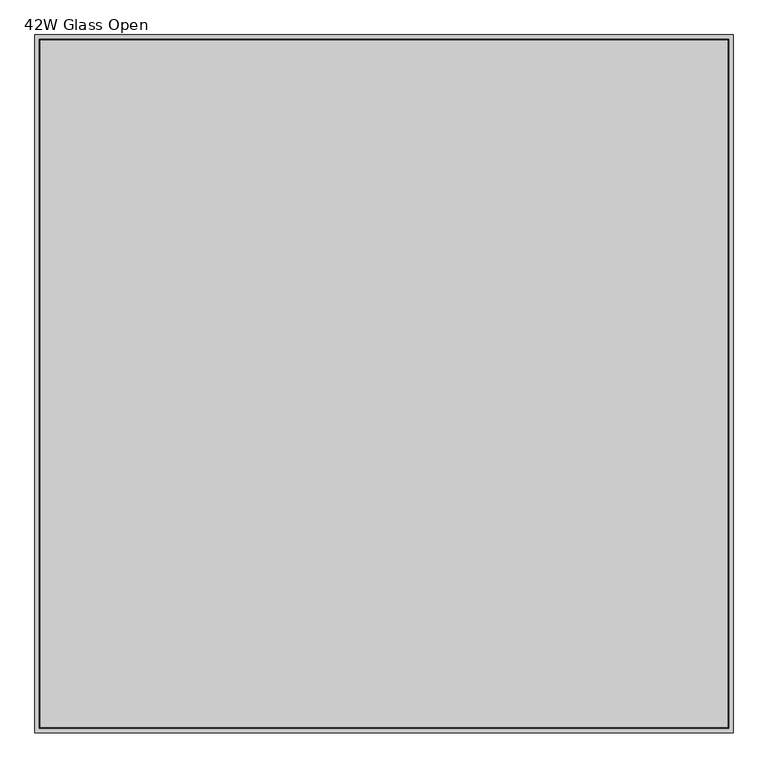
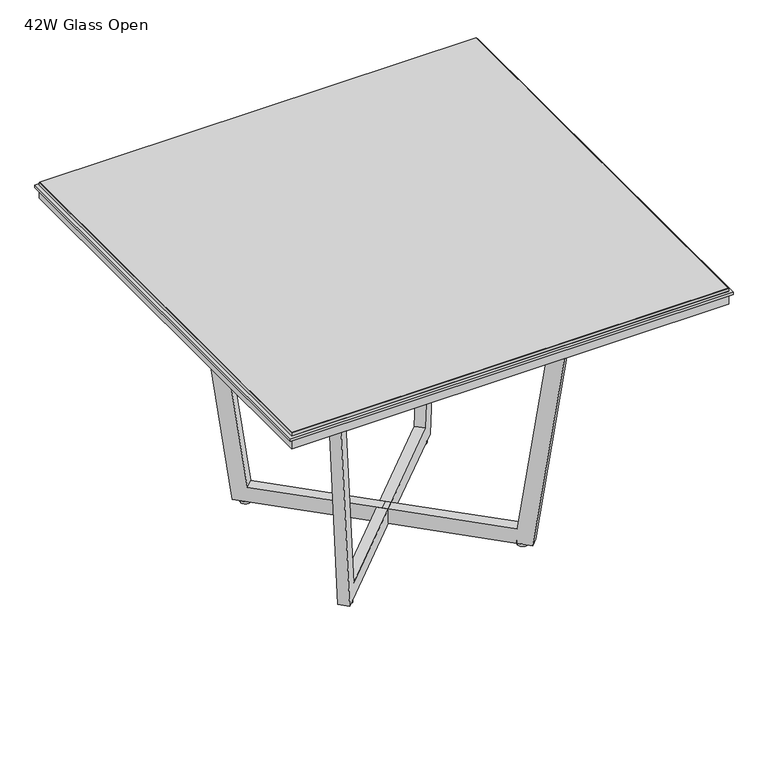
"""IFC4 building model written with IfcOpenShell, lengths in millimetres: furniture geometry, Knoll_Datesweiser_Tables_Meeting_Highline_Square : 42W Glass Open."""

from ifc_helpers import new_model, si_unit, point, frame, frame_2d, origin, origin_with_axes, place, context, project, spatial, polyline, circle_curve, trimmed, segment, composite_curve, outline, extrude, faceted_brep, source, transform, mapped, element, save


def furniture_42w_glass_open_2c8a6e51(model_context):
    return source(origin(), model_context, "Body", "SolidModel", [
        extrude(outline(polyline([(533.4, 533.4), (533.4, -533.4), (-533.4, -533.4), (-533.4, 533.4), (533.4, 533.4)])), frame((0.0, 0.0, 698.5), z_axis=(0.0, 0.0, 1.0), x_axis=(1.0, 0.0, 0.0)), (0.0, 0.0, 1.0), 25.4),
        extrude(outline(polyline([(539.75, 539.75), (539.75, -539.75), (-539.75, -539.75), (-539.75, 539.75), (539.75, 539.75)])), frame((0.0, 0.0, 723.9), z_axis=(0.0, 0.0, 1.0), x_axis=(1.0, 0.0, 0.0)), (0.0, 0.0, 1.0), 6.35),
        faceted_brep([(-533.4, 533.4, 738.759), (-533.4, 533.4, 731.266), (-533.4, -533.4, 731.266), (-533.4, -533.4, 738.759), (-532.384, -532.384, 739.775), (-532.384, 532.384, 739.775), (-532.384, 532.384, 730.25), (-532.384, -532.384, 730.25), (533.4, -533.4, 731.266), (533.4, -533.4, 738.759), (532.384, -532.384, 739.775), (532.384, -532.384, 730.25), (533.4, 533.4, 731.266), (533.4, 533.4, 738.759), (532.384, 532.384, 739.775), (532.384, 532.384, 730.25)], [[[0, 1, 2, 3]], [[0, 3, 4, 5]], [[2, 1, 6, 7]], [[3, 2, 8, 9]], [[4, 3, 9, 10]], [[2, 7, 11, 8]], [[9, 8, 12, 13]], [[10, 9, 13, 14]], [[8, 11, 15, 12]], [[1, 0, 13, 12]], [[0, 5, 14, 13]], [[6, 1, 12, 15]], [[5, 4, 10, 14]], [[7, 6, 15, 11]]]),
        extrude(outline(composite_curve([segment(trimmed(circle_curve(frame_2d((-214.2640473, -214.2640473)), 12.7), [point((-201.5640473, -214.2640473))], [point((-226.9640473, -214.2640473))], False, "CARTESIAN"), True, "CONTINUOUS"), segment(trimmed(circle_curve(frame_2d((-214.2640473, -214.2640473)), 12.7), [point((-226.9640473, -214.2640473))], [point((-201.5640473, -214.2640473))], False, "CARTESIAN"), True, "CONTINUOUS")], self_intersect=False)), origin_with_axes(), (0.0, 0.0, 1.0), 5.9867797),
        extrude(outline(composite_curve([segment(trimmed(circle_curve(frame_2d((-214.2640473, 214.2640473)), 12.7), [point((-201.5640473, 214.2640473))], [point((-226.9640473, 214.2640473))], False, "CARTESIAN"), True, "CONTINUOUS"), segment(trimmed(circle_curve(frame_2d((-214.2640473, 214.2640473)), 12.7), [point((-226.9640473, 214.2640473))], [point((-201.5640473, 214.2640473))], False, "CARTESIAN"), True, "CONTINUOUS")], self_intersect=False)), origin_with_axes(), (0.0, 0.0, 1.0), 5.9867797),
        extrude(outline(composite_curve([segment(trimmed(circle_curve(frame_2d((214.2640473, -214.2640473)), 12.7), [point((226.9640473, -214.2640473))], [point((201.5640473, -214.2640473))], False, "CARTESIAN"), True, "CONTINUOUS"), segment(trimmed(circle_curve(frame_2d((214.2640473, -214.2640473)), 12.7), [point((201.5640473, -214.2640473))], [point((226.9640473, -214.2640473))], False, "CARTESIAN"), True, "CONTINUOUS")], self_intersect=False)), origin_with_axes(), (0.0, 0.0, 1.0), 5.9867797),
        extrude(outline(composite_curve([segment(trimmed(circle_curve(frame_2d((214.2640473, 214.2640473)), 12.7), [point((226.9640473, 214.2640473))], [point((201.5640473, 214.2640473))], False, "CARTESIAN"), True, "CONTINUOUS"), segment(trimmed(circle_curve(frame_2d((214.2640473, 214.2640473)), 12.7), [point((201.5640473, 214.2640473))], [point((226.9640473, 214.2640473))], False, "CARTESIAN"), True, "CONTINUOUS")], self_intersect=False)), origin_with_axes(), (0.0, 0.0, 1.0), 5.9867797),
        extrude(outline(polyline([(-328.4154116, 0.0), (0.0, 0.0), (96.4293466, -692.6387226), (57.9549435, -692.5888898), (-33.1691487, -38.0570712), (-328.4642085, -37.6745992), (-623.7592682, -37.2921272), (-716.578577, -691.5856987), (-755.0529801, -691.5358658), (-656.8297213, 0.8507388), (-328.4154116, 0.0)])), frame((223.2443137, -241.2048259, 5.9867797), z_axis=(0.7071067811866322, 0.7071067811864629, 0.0), x_axis=(0.7071061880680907, -0.70710618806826, -0.001295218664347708)), (0.0, 0.0, 1.0), 25.4),
        extrude(outline(polyline([(328.4154116, 0.0), (656.8297213, 0.8507388), (755.0529801, -691.5358658), (716.578577, -691.5856987), (623.7592682, -37.2921272), (328.4642085, -37.6745992), (33.1691487, -38.0570712), (-57.9549435, -692.5888898), (-96.4293466, -692.6387226), (0.0, 0.0), (328.4154116, 0.0)])), frame((-223.2443137, -241.2048259, 5.9867797), z_axis=(-0.707106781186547, 0.7071067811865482, 0.0), x_axis=(0.7071061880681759, 0.7071061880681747, 0.001295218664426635)), (0.0, 0.0, 1.0), 25.4),
    ])


if __name__ == "__main__":
    model = new_model("IFC4")
    model_context = context("Model", 3, world=origin())
    ifc_project = project(units=[si_unit("LENGTHUNIT", "METRE", prefix="MILLI")], contexts=[model_context])
    site = spatial("IfcSite", under=ifc_project)
    building = spatial("IfcBuilding", under=site)
    placement = place(None, origin())
    furniture_42w_glass_open_shape = furniture_42w_glass_open_2c8a6e51(model_context)
    element("IfcFurniture", 1, ObjectType="Knoll_Datesweiser_Tables_Meeting_Highline_Square : 42W Glass Open", at=placement, inside=building, context=model_context, shape_type="MappedRepresentation", body=[
        mapped(furniture_42w_glass_open_shape, transform((0.0, 0.0, 0.0), x_axis=(1.0, 0.0, 0.0), y_axis=(0.0, 1.0, 0.0), z_axis=(0.0, 0.0, 1.0))),
    ])
    save(model, "model.ifc")
